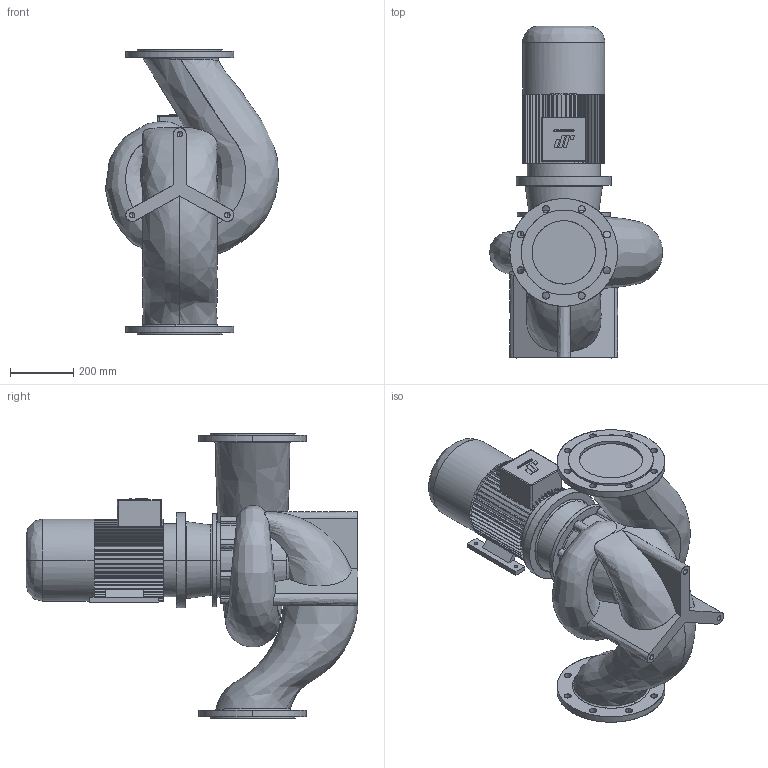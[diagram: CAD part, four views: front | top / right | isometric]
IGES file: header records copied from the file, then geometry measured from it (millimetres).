
Start section: CombiLine
Global section: file name: CLB_200-160_IEC132M_ND10.igs; native system:  By UGS Corp.; preprocessor: XPlus GENERIC/IGES 3.0; author: Stageplaats; organization: Johnson Pump Water B.V.; date: 20070718.090325; units: millimetre
Bounding box: 546 x 1046.5 x 900 mm (x, y, z)
Surface area: 2606591.8 mm2 (no closed solid volume)
Topology: 0 solids, 0 shells, 595 faces, 3609 edges, 3603 vertices
Faces by surface type: bspline 595
